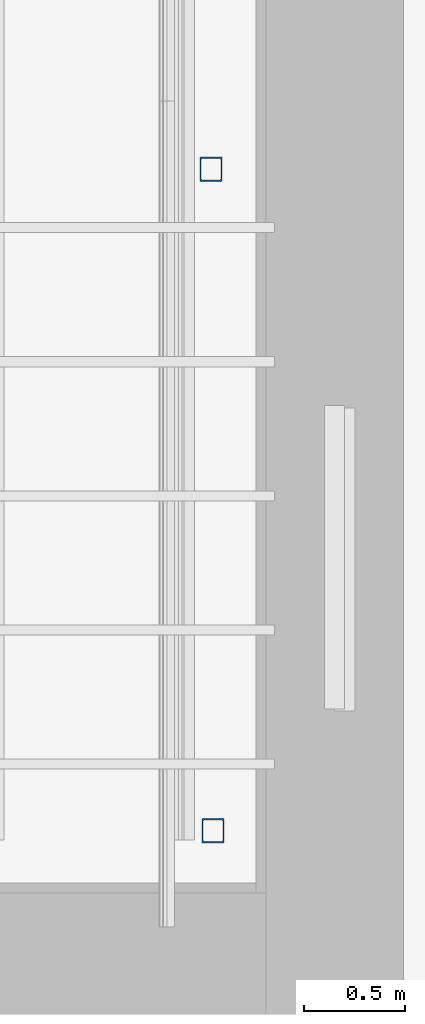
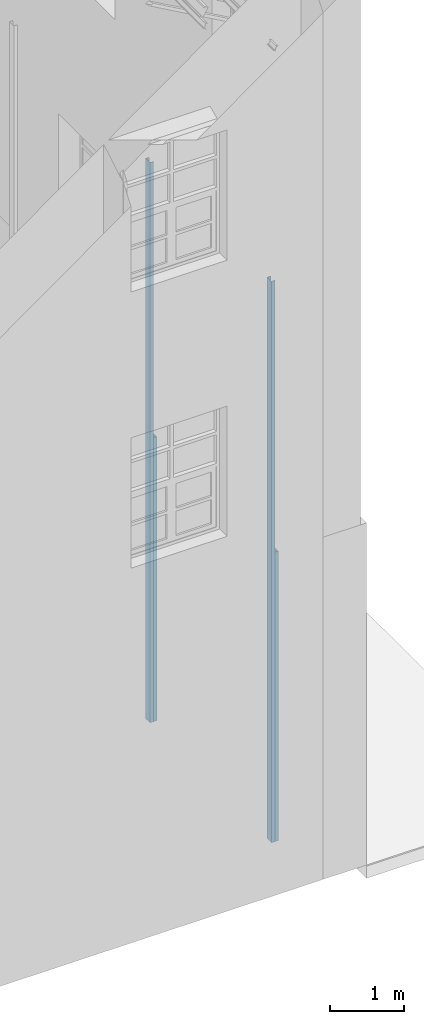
# One storey, part 10 of 75: 4 columns.
"""IFC2X3 building model written with IfcOpenShell, lengths in metres."""

from ifc_helpers import new_model, entity, si_unit, converted_unit, derived_unit, direction, frame, frame_2d, origin, place, context, subcontext, project, spatial, polyline, circle_curve, parameter, trimmed, segment, composite_curve, outline, extrude, source, transform, mapped, material, type_object, type_shapes, element, save


model = new_model("IFC2X3")

# Units and contexts
model_context = context("Model", 3, precision=1e-05, world=origin(), true_north=direction((6.12303176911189e-17, 1.0)))
body_context = subcontext(model_context, "Body", "Model", "MODEL_VIEW")
ifc_project = project(units=[si_unit("LENGTHUNIT", "METRE"), si_unit("AREAUNIT", "SQUARE_METRE"), si_unit("VOLUMEUNIT", "CUBIC_METRE"), converted_unit("PLANEANGLEUNIT", "DEGREE", entity("IfcRatioMeasure", 0.0174532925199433), si_unit("PLANEANGLEUNIT", "RADIAN"), dimensions=[0, 0, 0, 0, 0, 0, 0]), si_unit("MASSUNIT", "GRAM", prefix="KILO"), derived_unit("MASSDENSITYUNIT", [(si_unit("MASSUNIT", "GRAM", prefix="KILO"), 1), (si_unit("LENGTHUNIT", "METRE"), -3)]), derived_unit("MOMENTOFINERTIAUNIT", [(si_unit("LENGTHUNIT", "METRE"), 4)]), si_unit("TIMEUNIT", "SECOND"), si_unit("FREQUENCYUNIT", "HERTZ"), si_unit("THERMODYNAMICTEMPERATUREUNIT", "DEGREE_CELSIUS"), derived_unit("THERMALTRANSMITTANCEUNIT", [(si_unit("MASSUNIT", "GRAM", prefix="KILO"), 1), (si_unit("THERMODYNAMICTEMPERATUREUNIT", "KELVIN"), -1), (si_unit("TIMEUNIT", "SECOND"), -3)]), derived_unit("VOLUMETRICFLOWRATEUNIT", [(si_unit("LENGTHUNIT", "METRE"), 3), (si_unit("TIMEUNIT", "SECOND"), -1)]), si_unit("ELECTRICCURRENTUNIT", "AMPERE"), si_unit("ELECTRICVOLTAGEUNIT", "VOLT"), si_unit("POWERUNIT", "WATT"), si_unit("FORCEUNIT", "NEWTON", prefix="KILO"), si_unit("ILLUMINANCEUNIT", "LUX"), si_unit("LUMINOUSFLUXUNIT", "LUMEN"), si_unit("LUMINOUSINTENSITYUNIT", "CANDELA"), derived_unit("USERDEFINED", [(si_unit("MASSUNIT", "GRAM", prefix="KILO"), -1), (si_unit("LENGTHUNIT", "METRE"), -2), (si_unit("TIMEUNIT", "SECOND"), 3), (si_unit("LUMINOUSFLUXUNIT", "LUMEN"), 1)]), derived_unit("LINEARVELOCITYUNIT", [(si_unit("LENGTHUNIT", "METRE"), 1), (si_unit("TIMEUNIT", "SECOND"), -1)]), si_unit("PRESSUREUNIT", "PASCAL"), derived_unit("USERDEFINED", [(si_unit("LENGTHUNIT", "METRE"), -2), (si_unit("MASSUNIT", "GRAM", prefix="KILO"), 1), (si_unit("TIMEUNIT", "SECOND"), -2)]), derived_unit("LINEARFORCEUNIT", [(si_unit("MASSUNIT", "GRAM", prefix="KILO"), 1), (si_unit("LENGTHUNIT", "METRE"), 1), (si_unit("TIMEUNIT", "SECOND"), -2), (si_unit("LENGTHUNIT", "METRE"), -1)]), derived_unit("PLANARFORCEUNIT", [(si_unit("MASSUNIT", "GRAM", prefix="KILO"), 1), (si_unit("LENGTHUNIT", "METRE"), 1), (si_unit("TIMEUNIT", "SECOND"), -2), (si_unit("LENGTHUNIT", "METRE"), -2)])], contexts=[model_context])

# Site, building, storey
site_placement = place(None, origin())
site = spatial("IfcSite", under=ifc_project, at=site_placement, Name="Superficie", CompositionType="ELEMENT")
building_placement = place(site_placement, origin())
building = spatial("IfcBuilding", under=site, at=building_placement, Name="Telegestiones", CompositionType="ELEMENT")
storey_placement = place(building_placement, origin())
storey = spatial("IfcBuildingStorey", under=building, at=storey_placement, Name="Nivel 0_NPT", CompositionType="ELEMENT", Elevation=0.0)

# Columns
ifc_material = material(Name="Metal - Acero - 345 MPa")
column_type_1 = type_object("IfcColumnType", Name="UPE - Canales de ala paralela - Pilar:UPE 120", PredefinedType="COLUMN", material=ifc_material)
shared_shape_1 = source(origin(), body_context, "Body", "SweptSolid", [
    extrude(outline(composite_curve([segment(polyline([(-0.0599999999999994, -0.0264), (0.0600000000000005, -0.0264)]), True, "CONTINUOUS"), segment(polyline([(0.0600000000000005, -0.0264), (0.0600000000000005, 0.0286)]), True, "CONTINUOUS"), segment(polyline([(0.0600000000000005, 0.0286), (0.0539999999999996, 0.0286)]), True, "CONTINUOUS"), segment(polyline([(0.0539999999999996, 0.0286), (0.0539999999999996, -0.00939999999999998)]), True, "CONTINUOUS"), segment(trimmed(circle_curve(frame_2d((0.0419999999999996, -0.0094), x_axis=(1.0, 0.0)), 0.012), [parameter(270.0)], [parameter(0.0)], True, "PARAMETER"), False, "CONTINUOUS"), segment(polyline([(0.0419999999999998, -0.0214), (-0.0420000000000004, -0.0214)]), True, "CONTINUOUS"), segment(trimmed(circle_curve(frame_2d((-0.0420000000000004, -0.00940000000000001), x_axis=(0.0, -1.0)), 0.012), [parameter(270.0)], [parameter(0.0)], True, "PARAMETER"), False, "CONTINUOUS"), segment(polyline([(-0.0540000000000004, -0.0094), (-0.0540000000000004, 0.0286)]), True, "CONTINUOUS"), segment(polyline([(-0.0540000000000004, 0.0286), (-0.0599999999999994, 0.0286)]), True, "CONTINUOUS"), segment(polyline([(-0.0599999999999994, 0.0286), (-0.0599999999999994, -0.0264)]), True, "CONTINUOUS")], self_intersect=False)), frame((0.00660000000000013, 0.0, 0.0), z_axis=(0.0, 0.0, 1.0), x_axis=(0.0, -1.0, 0.0)), (0.0, 0.0, 1.0), 9.27),
])
type_shapes(column_type_1, [shared_shape_1])
column_1_placement = place(storey_placement, frame((14.6677777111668, -5.49739277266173, 0.0)))
element("IfcColumn", 1, at=column_1_placement, inside=storey, type_object=column_type_1, Name="UPE - Canales de ala paralela - Pilar:UPE 120", ObjectType="UPE - Canales de ala paralela - Pilar:UPE 120", context=body_context, shape_type="MappedRepresentation", body=[
    mapped(shared_shape_1, transform((0.0, 0.0, 0.0), scale=1.0)),
])
column_type_2 = type_object("IfcColumnType", Name="UPE - Canales de ala paralela - Pilar:UPE 120", PredefinedType="COLUMN", material=ifc_material)
shared_shape_2 = source(origin(), body_context, "Body", "SweptSolid", [
    extrude(outline(composite_curve([segment(polyline([(-0.0599999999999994, -0.0264), (0.0600000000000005, -0.0264)]), True, "CONTINUOUS"), segment(polyline([(0.0600000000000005, -0.0264), (0.0600000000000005, 0.0286)]), True, "CONTINUOUS"), segment(polyline([(0.0600000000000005, 0.0286), (0.0539999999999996, 0.0286)]), True, "CONTINUOUS"), segment(polyline([(0.0539999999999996, 0.0286), (0.0539999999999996, -0.00939999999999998)]), True, "CONTINUOUS"), segment(trimmed(circle_curve(frame_2d((0.0419999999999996, -0.0094), x_axis=(1.0, 0.0)), 0.012), [parameter(270.0)], [parameter(0.0)], True, "PARAMETER"), False, "CONTINUOUS"), segment(polyline([(0.0419999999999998, -0.0214), (-0.0420000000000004, -0.0214)]), True, "CONTINUOUS"), segment(trimmed(circle_curve(frame_2d((-0.0420000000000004, -0.00940000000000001), x_axis=(0.0, -1.0)), 0.012), [parameter(270.0)], [parameter(0.0)], True, "PARAMETER"), False, "CONTINUOUS"), segment(polyline([(-0.0540000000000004, -0.0094), (-0.0540000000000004, 0.0286)]), True, "CONTINUOUS"), segment(polyline([(-0.0540000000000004, 0.0286), (-0.0599999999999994, 0.0286)]), True, "CONTINUOUS"), segment(polyline([(-0.0599999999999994, 0.0286), (-0.0599999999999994, -0.0264)]), True, "CONTINUOUS")], self_intersect=False)), frame((0.00660000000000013, 0.0, 0.0), z_axis=(0.0, 0.0, 1.0), x_axis=(0.0, -1.0, 0.0)), (0.0, 0.0, 1.0), 9.25),
])
type_shapes(column_type_2, [shared_shape_2])
column_2_placement = place(storey_placement, frame((14.6586126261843, -2.22639277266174, 0.0)))
element("IfcColumn", 2, at=column_2_placement, inside=storey, type_object=column_type_2, Name="UPE - Canales de ala paralela - Pilar:UPE 120", ObjectType="UPE - Canales de ala paralela - Pilar:UPE 120", context=body_context, shape_type="MappedRepresentation", body=[
    mapped(shared_shape_2, transform((0.0, 0.0, 0.0), scale=1.0)),
])
column_type_3 = type_object("IfcColumnType", Name="UPE - Canales de ala paralela - Pilar:UPE 120", PredefinedType="COLUMN", material=ifc_material)
shared_shape_3 = source(origin(), body_context, "Body", "SweptSolid", [
    extrude(outline(composite_curve([segment(polyline([(-0.0600000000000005, -0.0264), (0.0599999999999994, -0.0264)]), True, "CONTINUOUS"), segment(polyline([(0.0599999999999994, -0.0264), (0.0599999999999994, 0.0286)]), True, "CONTINUOUS"), segment(polyline([(0.0599999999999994, 0.0286), (0.0540000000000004, 0.0286)]), True, "CONTINUOUS"), segment(polyline([(0.0540000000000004, 0.0286), (0.0540000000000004, -0.00939999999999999)]), True, "CONTINUOUS"), segment(trimmed(circle_curve(frame_2d((0.0420000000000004, -0.00939999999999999), x_axis=(1.0, 0.0)), 0.012), [parameter(270.0)], [parameter(0.0)], True, "PARAMETER"), False, "CONTINUOUS"), segment(polyline([(0.0420000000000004, -0.0214), (-0.0419999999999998, -0.0214)]), True, "CONTINUOUS"), segment(trimmed(circle_curve(frame_2d((-0.0419999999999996, -0.00939999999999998), x_axis=(0.0, -1.0)), 0.012), [parameter(270.0)], [parameter(0.0)], True, "PARAMETER"), False, "CONTINUOUS"), segment(polyline([(-0.0539999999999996, -0.00939999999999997), (-0.0539999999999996, 0.0286)]), True, "CONTINUOUS"), segment(polyline([(-0.0539999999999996, 0.0286), (-0.0600000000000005, 0.0286)]), True, "CONTINUOUS"), segment(polyline([(-0.0600000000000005, 0.0286), (-0.0600000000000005, -0.0264)]), True, "CONTINUOUS")], self_intersect=False)), frame((0.00660000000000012, 0.0, 0.0), z_axis=(0.0, 0.0, 1.0), x_axis=(0.0, -1.0, 0.0)), (0.0, 0.0, 1.0), 4.69),
])
type_shapes(column_type_3, [shared_shape_3])
column_3_placement = place(storey_placement, frame((14.7290126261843, -2.22639277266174, 0.0), z_axis=(0.0, 0.0, 1.0), x_axis=(-1.0, 0.0, 0.0)))
element("IfcColumn", 3, at=column_3_placement, inside=storey, type_object=column_type_3, Name="UPE - Canales de ala paralela - Pilar:UPE 120", ObjectType="UPE - Canales de ala paralela - Pilar:UPE 120", context=body_context, shape_type="MappedRepresentation", body=[
    mapped(shared_shape_3, transform((0.0, 0.0, 0.0), scale=1.0)),
])
column_type_4 = type_object("IfcColumnType", Name="UPE - Canales de ala paralela - Pilar:UPE 120", PredefinedType="COLUMN", material=ifc_material)
shared_shape_4 = source(origin(), body_context, "Body", "SweptSolid", [
    extrude(outline(composite_curve([segment(polyline([(-0.0600000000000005, -0.0264), (0.0599999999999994, -0.0264)]), True, "CONTINUOUS"), segment(polyline([(0.0599999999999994, -0.0264), (0.0599999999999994, 0.0286)]), True, "CONTINUOUS"), segment(polyline([(0.0599999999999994, 0.0286), (0.0540000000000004, 0.0286)]), True, "CONTINUOUS"), segment(polyline([(0.0540000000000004, 0.0286), (0.0540000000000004, -0.00939999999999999)]), True, "CONTINUOUS"), segment(trimmed(circle_curve(frame_2d((0.0420000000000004, -0.00939999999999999), x_axis=(1.0, 0.0)), 0.012), [parameter(270.0)], [parameter(0.0)], True, "PARAMETER"), False, "CONTINUOUS"), segment(polyline([(0.0420000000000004, -0.0214), (-0.0419999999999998, -0.0214)]), True, "CONTINUOUS"), segment(trimmed(circle_curve(frame_2d((-0.0419999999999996, -0.00939999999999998), x_axis=(0.0, -1.0)), 0.012), [parameter(270.0)], [parameter(0.0)], True, "PARAMETER"), False, "CONTINUOUS"), segment(polyline([(-0.0539999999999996, -0.00939999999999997), (-0.0539999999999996, 0.0286)]), True, "CONTINUOUS"), segment(polyline([(-0.0539999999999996, 0.0286), (-0.0600000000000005, 0.0286)]), True, "CONTINUOUS"), segment(polyline([(-0.0600000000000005, 0.0286), (-0.0600000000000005, -0.0264)]), True, "CONTINUOUS")], self_intersect=False)), frame((0.00660000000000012, 0.0, 0.0), z_axis=(0.0, 0.0, 1.0), x_axis=(0.0, -1.0, 0.0)), (0.0, 0.0, 1.0), 4.78),
])
type_shapes(column_type_4, [shared_shape_4])
column_4_placement = place(storey_placement, frame((14.7381777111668, -5.49739277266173, 0.0), z_axis=(0.0, 0.0, 1.0), x_axis=(-1.0, 0.0, 0.0)))
element("IfcColumn", 4, at=column_4_placement, inside=storey, type_object=column_type_4, Name="UPE - Canales de ala paralela - Pilar:UPE 120", ObjectType="UPE - Canales de ala paralela - Pilar:UPE 120", context=body_context, shape_type="MappedRepresentation", body=[
    mapped(shared_shape_4, transform((0.0, 0.0, 0.0), scale=1.0)),
])

save(model, "model.ifc")
